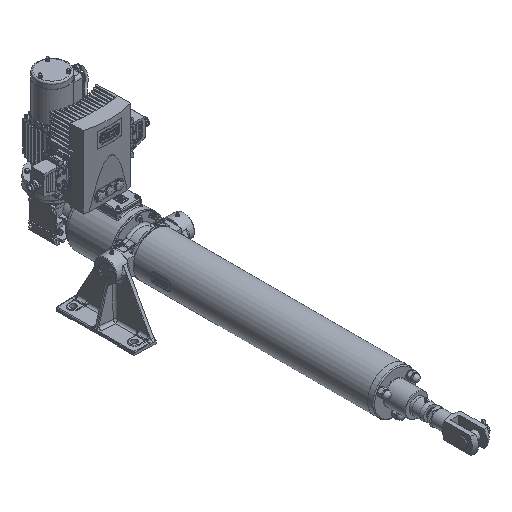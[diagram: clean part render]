
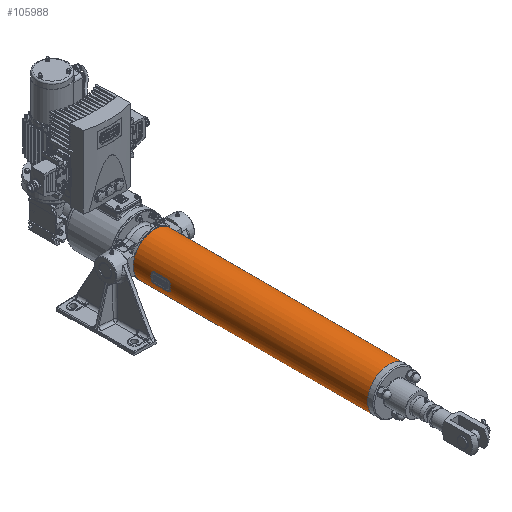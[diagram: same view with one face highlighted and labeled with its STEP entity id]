
A CAD part, isometric view. The second image highlights one B-rep face of the part: STEP entity #105988.
In plain terms, the highlighted cylindrical face has radius 70 mm (diameter 140 mm), a full revolution.
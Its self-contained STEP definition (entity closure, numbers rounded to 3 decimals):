
#1221=CYLINDRICAL_SURFACE('',#111545,70.);
#3252=B_SPLINE_CURVE_WITH_KNOTS('',3,(#147857,#147858,#147859,#147860,#147861,
#147862),.UNSPECIFIED.,.F.,.F.,(4,1,1,4),(0.,0.003,0.006,
0.013),.UNSPECIFIED.);
#3253=B_SPLINE_CURVE_WITH_KNOTS('',3,(#147866,#147867,#147868,#147869,#147870,
#147871,#147872),.UNSPECIFIED.,.F.,.F.,(4,1,1,1,4),(0.,0.003,
0.006,0.009,0.013),
 .UNSPECIFIED.);
#3254=B_SPLINE_CURVE_WITH_KNOTS('',3,(#147873,#147874,#147875,#147876,#147877,
#147878),.UNSPECIFIED.,.F.,.F.,(4,1,1,4),(0.,0.003,0.006,
0.013),.UNSPECIFIED.);
#3255=B_SPLINE_CURVE_WITH_KNOTS('',3,(#147882,#147883,#147884,#147885,#147886,
#147887,#147888),.UNSPECIFIED.,.F.,.F.,(4,1,1,1,4),(0.,0.003,
0.006,0.009,0.013),
 .UNSPECIFIED.);
#3256=B_SPLINE_CURVE_WITH_KNOTS('',3,(#147893,#147894,#147895,#147896,#147897,
#147898),.UNSPECIFIED.,.F.,.F.,(4,1,1,4),(0.,0.003,0.006,
0.013),.UNSPECIFIED.);
#3257=B_SPLINE_CURVE_WITH_KNOTS('',3,(#147902,#147903,#147904,#147905,#147906,
#147907,#147908),.UNSPECIFIED.,.F.,.F.,(4,1,1,1,4),(0.,0.003,
0.006,0.009,0.013),.UNSPECIFIED.);
#3258=B_SPLINE_CURVE_WITH_KNOTS('',3,(#147909,#147910,#147911,#147912,#147913,
#147914),.UNSPECIFIED.,.F.,.F.,(4,1,1,4),(0.,0.003,0.006,
0.013),.UNSPECIFIED.);
#3259=B_SPLINE_CURVE_WITH_KNOTS('',3,(#147918,#147919,#147920,#147921,#147922,
#147923,#147924),.UNSPECIFIED.,.F.,.F.,(4,1,1,1,4),(0.,0.003,
0.006,0.009,0.013),
 .UNSPECIFIED.);
#5282=LINE('',#147864,#11317);
#5283=LINE('',#147880,#11318);
#5284=LINE('',#147900,#11319);
#5285=LINE('',#147916,#11320);
#11317=VECTOR('',#122555,1000.);
#11318=VECTOR('',#122556,1000.);
#11319=VECTOR('',#122561,1000.);
#11320=VECTOR('',#122562,1000.);
#21232=ORIENTED_EDGE('',*,*,#41342,.F.);
#21233=ORIENTED_EDGE('',*,*,#41343,.F.);
#21234=ORIENTED_EDGE('',*,*,#41344,.F.);
#21235=ORIENTED_EDGE('',*,*,#41333,.F.);
#21236=ORIENTED_EDGE('',*,*,#41345,.F.);
#21237=ORIENTED_EDGE('',*,*,#41346,.F.);
#21238=ORIENTED_EDGE('',*,*,#41347,.F.);
#21239=ORIENTED_EDGE('',*,*,#41329,.F.);
#21240=ORIENTED_EDGE('',*,*,#41348,.F.);
#21241=ORIENTED_EDGE('',*,*,#41349,.T.);
#21242=ORIENTED_EDGE('',*,*,#41350,.F.);
#21243=ORIENTED_EDGE('',*,*,#41351,.F.);
#21244=ORIENTED_EDGE('',*,*,#41352,.F.);
#21245=ORIENTED_EDGE('',*,*,#41341,.F.);
#21246=ORIENTED_EDGE('',*,*,#41353,.F.);
#21247=ORIENTED_EDGE('',*,*,#41354,.F.);
#21248=ORIENTED_EDGE('',*,*,#41355,.F.);
#21249=ORIENTED_EDGE('',*,*,#41337,.F.);
#41329=EDGE_CURVE('',#51698,#51696,#58528,.T.);
#41333=EDGE_CURVE('',#51702,#51700,#58530,.T.);
#41337=EDGE_CURVE('',#51706,#51704,#58532,.T.);
#41341=EDGE_CURVE('',#51710,#51708,#58534,.T.);
#41342=EDGE_CURVE('',#51711,#51698,#3252,.T.);
#41343=EDGE_CURVE('',#51712,#51711,#5282,.T.);
#41344=EDGE_CURVE('',#51700,#51712,#3253,.T.);
#41345=EDGE_CURVE('',#51713,#51702,#3254,.T.);
#41346=EDGE_CURVE('',#51714,#51713,#5283,.F.);
#41347=EDGE_CURVE('',#51696,#51714,#3255,.T.);
#41348=EDGE_CURVE('',#51715,#51715,#58535,.T.);
#41349=EDGE_CURVE('',#51716,#51716,#58536,.T.);
#41350=EDGE_CURVE('',#51717,#51706,#3256,.T.);
#41351=EDGE_CURVE('',#51718,#51717,#5284,.F.);
#41352=EDGE_CURVE('',#51708,#51718,#3257,.T.);
#41353=EDGE_CURVE('',#51719,#51710,#3258,.T.);
#41354=EDGE_CURVE('',#51720,#51719,#5285,.T.);
#41355=EDGE_CURVE('',#51704,#51720,#3259,.T.);
#51696=VERTEX_POINT('',#147823);
#51698=VERTEX_POINT('',#147827);
#51700=VERTEX_POINT('',#147832);
#51702=VERTEX_POINT('',#147836);
#51704=VERTEX_POINT('',#147841);
#51706=VERTEX_POINT('',#147845);
#51708=VERTEX_POINT('',#147850);
#51710=VERTEX_POINT('',#147854);
#51711=VERTEX_POINT('',#147863);
#51712=VERTEX_POINT('',#147865);
#51713=VERTEX_POINT('',#147879);
#51714=VERTEX_POINT('',#147881);
#51715=VERTEX_POINT('',#147890);
#51716=VERTEX_POINT('',#147892);
#51717=VERTEX_POINT('',#147899);
#51718=VERTEX_POINT('',#147901);
#51719=VERTEX_POINT('',#147915);
#51720=VERTEX_POINT('',#147917);
#58528=CIRCLE('',#111535,70.);
#58530=CIRCLE('',#111538,70.);
#58532=CIRCLE('',#111541,70.);
#58534=CIRCLE('',#111544,70.);
#58535=CIRCLE('',#111546,70.);
#58536=CIRCLE('',#111547,70.);
#61775=EDGE_LOOP('',(#21232,#21233,#21234,#21235,#21236,#21237,#21238,#21239));
#61776=EDGE_LOOP('',(#21240));
#61777=EDGE_LOOP('',(#21241));
#61778=EDGE_LOOP('',(#21242,#21243,#21244,#21245,#21246,#21247,#21248,#21249));
#67209=FACE_BOUND('',#61775,.T.);
#67210=FACE_BOUND('',#61776,.T.);
#67211=FACE_BOUND('',#61777,.T.);
#67212=FACE_BOUND('',#61778,.T.);
#105988=ADVANCED_FACE('',(#67209,#67210,#67211,#67212),#1221,.T.);
#111535=AXIS2_PLACEMENT_3D('',#147828,#122527,#122528);
#111538=AXIS2_PLACEMENT_3D('',#147837,#122535,#122536);
#111541=AXIS2_PLACEMENT_3D('',#147846,#122543,#122544);
#111544=AXIS2_PLACEMENT_3D('',#147855,#122551,#122552);
#111545=AXIS2_PLACEMENT_3D('',#147856,#122553,#122554);
#111546=AXIS2_PLACEMENT_3D('',#147889,#122557,#122558);
#111547=AXIS2_PLACEMENT_3D('',#147891,#122559,#122560);
#122527=DIRECTION('',(0.,1.,0.));
#122528=DIRECTION('',(0.,0.,1.));
#122535=DIRECTION('',(0.,-1.,0.));
#122536=DIRECTION('',(0.,0.,-1.));
#122543=DIRECTION('',(0.,-1.,0.));
#122544=DIRECTION('',(0.,0.,-1.));
#122551=DIRECTION('',(0.,1.,0.));
#122552=DIRECTION('',(0.,0.,1.));
#122553=DIRECTION('',(0.,-1.,0.));
#122554=DIRECTION('',(0.,0.,-1.));
#122555=DIRECTION('',(0.,-1.,0.));
#122556=DIRECTION('',(0.,-1.,0.));
#122557=DIRECTION('',(0.,1.,0.));
#122558=DIRECTION('',(1.,0.,0.));
#122559=DIRECTION('',(0.,1.,0.));
#122560=DIRECTION('',(1.,0.,0.));
#122561=DIRECTION('',(0.,-1.,0.));
#122562=DIRECTION('',(0.,-1.,0.));
#147823=CARTESIAN_POINT('',(69.541,642.503,-8.));
#147827=CARTESIAN_POINT('',(69.541,642.503,8.));
#147828=CARTESIAN_POINT('',(0.,642.503,0.));
#147832=CARTESIAN_POINT('',(69.541,704.503,8.));
#147836=CARTESIAN_POINT('',(69.541,704.503,-8.));
#147837=CARTESIAN_POINT('',(0.,704.503,0.));
#147841=CARTESIAN_POINT('',(-69.541,707.853,-8.));
#147845=CARTESIAN_POINT('',(-69.541,707.853,8.));
#147846=CARTESIAN_POINT('',(0.,707.853,0.));
#147850=CARTESIAN_POINT('',(-69.541,645.853,8.));
#147854=CARTESIAN_POINT('',(-69.541,645.853,-8.));
#147855=CARTESIAN_POINT('',(0.,645.853,0.));
#147856=CARTESIAN_POINT('',(0.,766.,0.));
#147857=CARTESIAN_POINT('',(68.147,650.503,16.));
#147858=CARTESIAN_POINT('',(68.147,649.439,16.));
#147859=CARTESIAN_POINT('',(68.248,647.345,15.576));
#147860=CARTESIAN_POINT('',(68.774,643.795,13.194));
#147861=CARTESIAN_POINT('',(69.298,642.503,10.113));
#147862=CARTESIAN_POINT('',(69.541,642.503,8.));
#147863=CARTESIAN_POINT('',(68.147,650.503,16.));
#147864=CARTESIAN_POINT('',(68.147,766.,16.));
#147865=CARTESIAN_POINT('',(68.147,696.503,16.));
#147866=CARTESIAN_POINT('',(69.541,704.503,8.));
#147867=CARTESIAN_POINT('',(69.42,704.503,9.057));
#147868=CARTESIAN_POINT('',(69.131,704.086,11.132));
#147869=CARTESIAN_POINT('',(68.642,702.322,13.787));
#147870=CARTESIAN_POINT('',(68.249,699.672,15.572));
#147871=CARTESIAN_POINT('',(68.147,697.567,16.));
#147872=CARTESIAN_POINT('',(68.147,696.503,16.));
#147873=CARTESIAN_POINT('',(68.147,696.503,-16.));
#147874=CARTESIAN_POINT('',(68.147,697.567,-16.));
#147875=CARTESIAN_POINT('',(68.248,699.661,-15.576));
#147876=CARTESIAN_POINT('',(68.774,703.21,-13.194));
#147877=CARTESIAN_POINT('',(69.298,704.503,-10.113));
#147878=CARTESIAN_POINT('',(69.541,704.503,-8.));
#147879=CARTESIAN_POINT('',(68.147,696.503,-16.));
#147880=CARTESIAN_POINT('',(68.147,766.,-16.));
#147881=CARTESIAN_POINT('',(68.147,650.503,-16.));
#147882=CARTESIAN_POINT('',(69.541,642.503,-8.));
#147883=CARTESIAN_POINT('',(69.42,642.503,-9.057));
#147884=CARTESIAN_POINT('',(69.131,642.92,-11.132));
#147885=CARTESIAN_POINT('',(68.642,644.684,-13.787));
#147886=CARTESIAN_POINT('',(68.249,647.334,-15.572));
#147887=CARTESIAN_POINT('',(68.147,649.439,-16.));
#147888=CARTESIAN_POINT('',(68.147,650.503,-16.));
#147889=CARTESIAN_POINT('',(0.,766.,0.));
#147890=CARTESIAN_POINT('',(70.,766.,0.));
#147891=CARTESIAN_POINT('',(0.,0.,0.));
#147892=CARTESIAN_POINT('',(70.,0.,0.));
#147893=CARTESIAN_POINT('',(-68.147,699.853,16.));
#147894=CARTESIAN_POINT('',(-68.147,700.917,16.));
#147895=CARTESIAN_POINT('',(-68.248,703.011,15.576));
#147896=CARTESIAN_POINT('',(-68.774,706.56,13.194));
#147897=CARTESIAN_POINT('',(-69.298,707.853,10.113));
#147898=CARTESIAN_POINT('',(-69.541,707.853,8.));
#147899=CARTESIAN_POINT('',(-68.147,699.853,16.));
#147900=CARTESIAN_POINT('',(-68.147,766.,16.));
#147901=CARTESIAN_POINT('',(-68.147,653.853,16.));
#147902=CARTESIAN_POINT('',(-69.541,645.853,8.));
#147903=CARTESIAN_POINT('',(-69.42,645.853,9.057));
#147904=CARTESIAN_POINT('',(-69.131,646.27,11.132));
#147905=CARTESIAN_POINT('',(-68.642,648.034,13.787));
#147906=CARTESIAN_POINT('',(-68.249,650.684,15.572));
#147907=CARTESIAN_POINT('',(-68.147,652.789,16.));
#147908=CARTESIAN_POINT('',(-68.147,653.853,16.));
#147909=CARTESIAN_POINT('',(-68.147,653.853,-16.));
#147910=CARTESIAN_POINT('',(-68.147,652.789,-16.));
#147911=CARTESIAN_POINT('',(-68.248,650.695,-15.576));
#147912=CARTESIAN_POINT('',(-68.774,647.145,-13.194));
#147913=CARTESIAN_POINT('',(-69.298,645.853,-10.113));
#147914=CARTESIAN_POINT('',(-69.541,645.853,-8.));
#147915=CARTESIAN_POINT('',(-68.147,653.853,-16.));
#147916=CARTESIAN_POINT('',(-68.147,766.,-16.));
#147917=CARTESIAN_POINT('',(-68.147,699.853,-16.));
#147918=CARTESIAN_POINT('',(-69.541,707.853,-8.));
#147919=CARTESIAN_POINT('',(-69.42,707.853,-9.057));
#147920=CARTESIAN_POINT('',(-69.131,707.436,-11.132));
#147921=CARTESIAN_POINT('',(-68.642,705.672,-13.787));
#147922=CARTESIAN_POINT('',(-68.249,703.022,-15.572));
#147923=CARTESIAN_POINT('',(-68.147,700.917,-16.));
#147924=CARTESIAN_POINT('',(-68.147,699.853,-16.));
